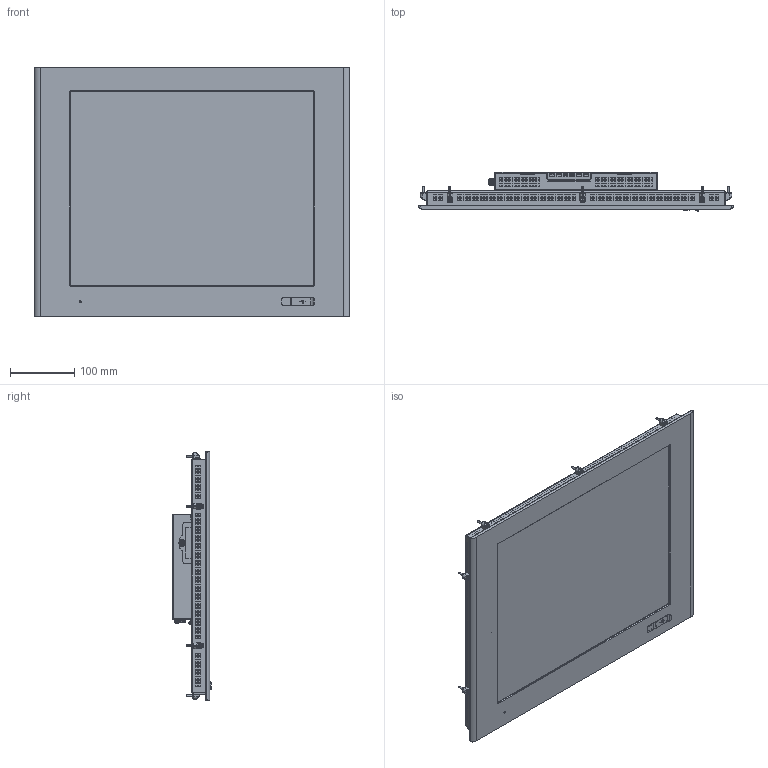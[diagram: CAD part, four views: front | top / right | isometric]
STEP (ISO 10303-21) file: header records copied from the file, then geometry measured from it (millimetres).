
FILE_DESCRIPTION((''),'2;1');
FILE_NAME('C6E22-Panel_190_RES_SL','2017-03-07T',('manpal'),(''),'PRO/ENGINEER BY PARAMETRIC TECHNOLOGY CORPORATION, 2013410','PRO/ENGINEER BY PARAMETRIC TECHNOLOGY CORPORATION, 2013410','');
FILE_SCHEMA(('AUTOMOTIVE_DESIGN { 1 0 10303 214 1 1 1 1 }'));
Products named in the file (2): C6E22-Panel_190_RES_SL_
Assembly tree (1 placements, depth 2):
  C6E22-Panel_190_RES_SL_
    C6E22-Panel_190_RES_SL_
Bounding box: 490 x 60.64 x 388 mm (x, y, z)
Surface area: 981558 mm2 (no closed solid volume)
Topology: 0 solids, 360 shells, 4464 faces, 19783 edges, 15485 vertices
Faces by surface type: plane 3424, cylinder 648, cone 205, bspline 113, torus 45, sphere 27, extrusion 2
Entity records: 227230 total; most frequent: CARTESIAN_POINT 51090, DIRECTION 30319, ORIENTED_EDGE 27941, EDGE_CURVE 19741, VECTOR 15653, LINE 15651, VERTEX_POINT 15485, AXIS2_PLACEMENT_3D 7333
